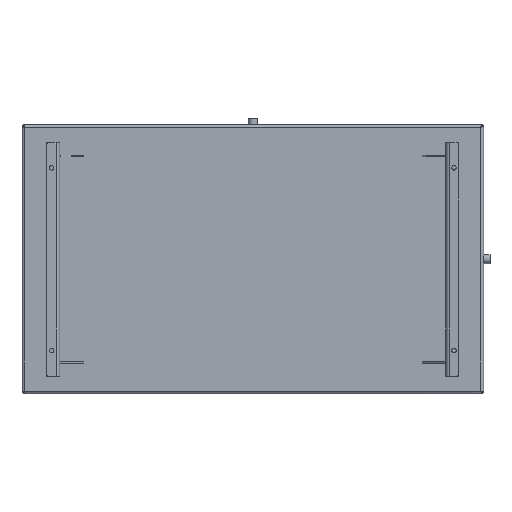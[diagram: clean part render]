
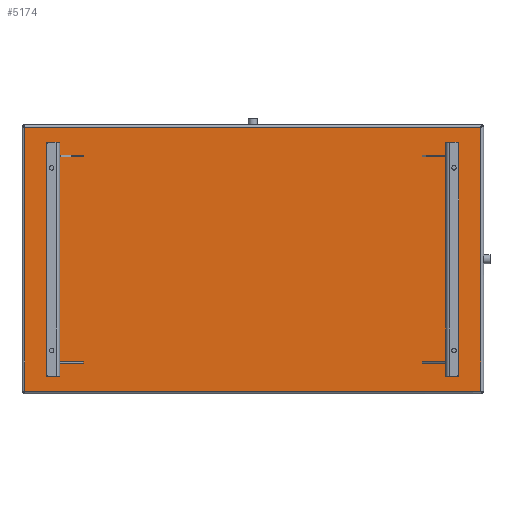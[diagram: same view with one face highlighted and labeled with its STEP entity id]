
A CAD part, front view. The second image highlights one B-rep face of the part: STEP entity #5174.
In plain terms, the highlighted planar face has unit normal (0, -1, 0).
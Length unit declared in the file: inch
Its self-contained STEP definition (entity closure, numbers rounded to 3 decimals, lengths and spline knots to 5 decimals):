
#113 = VECTOR ( 'NONE', #9078, 39.37008 ) ;
#785 = CARTESIAN_POINT ( 'NONE',  ( -11.16005, 3.1645, 1.61399 ) ) ;
#812 = DIRECTION ( 'NONE',  ( 0., -1., 0. ) ) ;
#885 = CARTESIAN_POINT ( 'NONE',  ( -82.73075, 3.1645, 43.39933 ) ) ;
#1000 = ORIENTED_EDGE ( 'NONE', *, *, #3150, .T. ) ;
#1705 = EDGE_CURVE ( 'NONE', #4371, #6585, #2795, .T. ) ;
#2127 = LINE ( 'NONE', #6893, #113 ) ;
#2563 = ORIENTED_EDGE ( 'NONE', *, *, #3161, .T. ) ;
#2795 = LINE ( 'NONE', #4653, #7984 ) ;
#2852 = LINE ( 'NONE', #885, #6136 ) ;
#2952 = EDGE_CURVE ( 'NONE', #8625, #4371, #9649, .T. ) ;
#3150 = EDGE_CURVE ( 'NONE', #4238, #8625, #2852, .T. ) ;
#3161 = EDGE_CURVE ( 'NONE', #6585, #4238, #2127, .T. ) ;
#3912 = ORIENTED_EDGE ( 'NONE', *, *, #2952, .T. ) ;
#4238 = VERTEX_POINT ( 'NONE', #6685 ) ;
#4371 = VERTEX_POINT ( 'NONE', #7541 ) ;
#4653 = CARTESIAN_POINT ( 'NONE',  ( -11.58935, 3.1645, 1.82864 ) ) ;
#4802 = CARTESIAN_POINT ( 'NONE',  ( -82.9454, 3.1645, 2.04329 ) ) ;
#5174 = ADVANCED_FACE ( 'NONE', ( #6418 ), #8936, .T. ) ;
#5574 = DIRECTION ( 'NONE',  ( 1., 0., 0. ) ) ;
#5788 = VECTOR ( 'NONE', #5574, 39.37008 ) ;
#5876 = AXIS2_PLACEMENT_3D ( 'NONE', #785, #812, #6108 ) ;
#6108 = DIRECTION ( 'NONE',  ( 0., 0., -1. ) ) ;
#6136 = VECTOR ( 'NONE', #7608, 39.37008 ) ;
#6418 = FACE_OUTER_BOUND ( 'NONE', #8781, .T. ) ;
#6585 = VERTEX_POINT ( 'NONE', #9172 ) ;
#6685 = CARTESIAN_POINT ( 'NONE',  ( -82.73075, 3.1645, 43.18469 ) ) ;
#6893 = CARTESIAN_POINT ( 'NONE',  ( -11.37471, 3.1645, 43.18469 ) ) ;
#7270 = CARTESIAN_POINT ( 'NONE',  ( -82.73075, 3.1645, 2.04329 ) ) ;
#7541 = CARTESIAN_POINT ( 'NONE',  ( -11.58935, 3.1645, 2.04329 ) ) ;
#7608 = DIRECTION ( 'NONE',  ( 0., 0., -1. ) ) ;
#7924 = DIRECTION ( 'NONE',  ( 0., 0., 1. ) ) ;
#7984 = VECTOR ( 'NONE', #7924, 39.37008 ) ;
#8000 = ORIENTED_EDGE ( 'NONE', *, *, #1705, .T. ) ;
#8625 = VERTEX_POINT ( 'NONE', #7270 ) ;
#8781 = EDGE_LOOP ( 'NONE', ( #3912, #8000, #2563, #1000 ) ) ;
#8936 = PLANE ( 'NONE',  #5876 ) ;
#9078 = DIRECTION ( 'NONE',  ( -1., 0., 0. ) ) ;
#9172 = CARTESIAN_POINT ( 'NONE',  ( -11.58935, 3.1645, 43.18469 ) ) ;
#9649 = LINE ( 'NONE', #4802, #5788 ) ;
